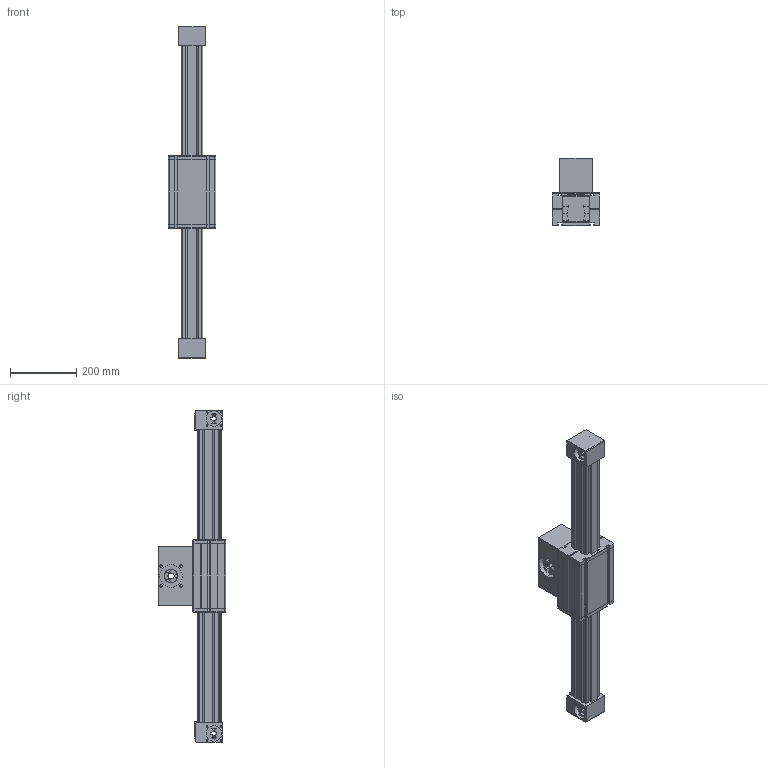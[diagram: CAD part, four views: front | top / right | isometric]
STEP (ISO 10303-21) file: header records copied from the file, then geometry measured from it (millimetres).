
FILE_DESCRIPTION (( 'STEP AP214' ), '1' );
FILE_NAME ('ELZT60.STEP', '2022-07-19T13:04:45', ( '' ), ( '' ), 'SwSTEP 2.0', 'SolidWorks 2020', '' );
FILE_SCHEMA (( 'AUTOMOTIVE_DESIGN' ));
Length unit declared in the file: millimetre
Products named in the file (6): timing belt reverse unit carriage^ELZT60_coupling claw pos.1; timing belt reverse unit^ELZT60_coupling claw pos.1; timing belt reverse unit^ELZT60_coupling claw pos.2; profile^ELZT60_4x guide rods; carriage^ELZT60_carriage version 0; ELZT60
Assembly tree (6 placements, depth 2):
  ELZT60
    profile^ELZT60_4x guide rods
    carriage^ELZT60_carriage version 0  x2
    timing belt reverse unit^ELZT60_coupling claw pos.1
    timing belt reverse unit^ELZT60_coupling claw pos.2
    timing belt reverse unit carriage^ELZT60_coupling claw pos.1
Bounding box: 144 x 202 x 1000 mm (x, y, z)
Volume: 7524710.5 mm3; surface area: 1023043.5 mm2
Topology: 18 solids, 18 shells, 665 faces, 1729 edges, 1098 vertices
Faces by surface type: plane 368, cylinder 219, cone 58, torus 16, sphere 4
Entity records: 15325 total; most frequent: DIRECTION 2597, CARTESIAN_POINT 2576, ORIENTED_EDGE 2440, EDGE_CURVE 1220, AXIS2_PLACEMENT_3D 893, VECTOR 811, LINE 811, VERTEX_POINT 788
